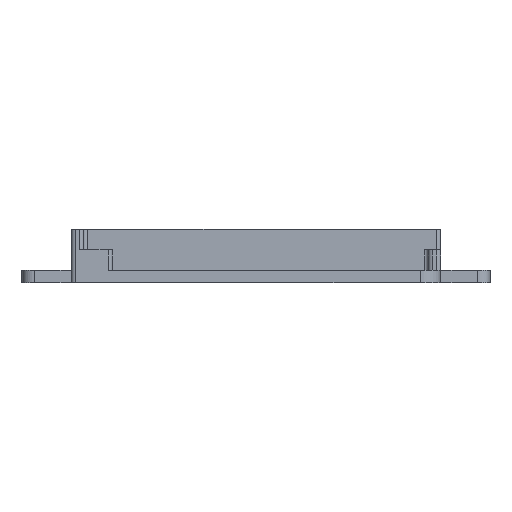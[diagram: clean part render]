
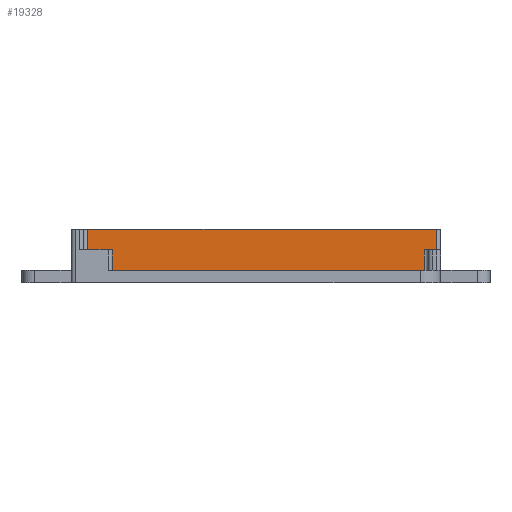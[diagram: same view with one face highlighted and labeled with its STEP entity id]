
A CAD part, front view. The second image highlights one B-rep face of the part: STEP entity #19328.
In plain terms, the highlighted planar face has unit normal (0, -1, 0).
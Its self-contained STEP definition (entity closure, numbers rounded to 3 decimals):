
#6405 = PLANE('',#6406);
#6406 = AXIS2_PLACEMENT_3D('',#6407,#6408,#6409);
#6407 = CARTESIAN_POINT('',(-45.,-87.5,13.));
#6408 = DIRECTION('',(0.,0.,1.));
#6409 = DIRECTION('',(1.,0.,0.));
#6517 = PLANE('',#6518);
#6518 = AXIS2_PLACEMENT_3D('',#6519,#6520,#6521);
#6519 = CARTESIAN_POINT('',(25.697,44.269,3.));
#6520 = DIRECTION('',(0.,0.,1.));
#6521 = DIRECTION('',(1.,0.,0.));
#8029 = CYLINDRICAL_SURFACE('',#8030,1.);
#8030 = AXIS2_PLACEMENT_3D('',#8031,#8032,#8033);
#8031 = CARTESIAN_POINT('',(44.,85.5,8.));
#8032 = DIRECTION('',(0.,0.,1.));
#8033 = DIRECTION('',(1.,0.,-0.));
#8055 = PLANE('',#8056);
#8056 = AXIS2_PLACEMENT_3D('',#8057,#8058,#8059);
#8057 = CARTESIAN_POINT('',(42.,67.5,8.));
#8058 = DIRECTION('',(0.,0.,1.));
#8059 = DIRECTION('',(1.,0.,0.));
#17591 = VERTEX_POINT('',#17592);
#17592 = CARTESIAN_POINT('',(-41.,84.5,13.));
#17611 = CYLINDRICAL_SURFACE('',#17612,1.);
#17612 = AXIS2_PLACEMENT_3D('',#17613,#17614,#17615);
#17613 = CARTESIAN_POINT('',(-41.,83.5,13.));
#17614 = DIRECTION('',(0.,0.,-1.));
#17615 = DIRECTION('',(-1.,-0.,-0.));
#17623 = EDGE_CURVE('',#17591,#17624,#17626,.T.);
#17624 = VERTEX_POINT('',#17625);
#17625 = CARTESIAN_POINT('',(44.,84.5,13.));
#17626 = SURFACE_CURVE('',#17627,(#17631,#17638),.PCURVE_S1.);
#17627 = LINE('',#17628,#17629);
#17628 = CARTESIAN_POINT('',(-45.,84.5,13.));
#17629 = VECTOR('',#17630,1.);
#17630 = DIRECTION('',(1.,0.,0.));
#17631 = PCURVE('',#6405,#17632);
#17632 = DEFINITIONAL_REPRESENTATION('',(#17633),#17637);
#17633 = LINE('',#17634,#17635);
#17634 = CARTESIAN_POINT('',(0.,172.));
#17635 = VECTOR('',#17636,1.);
#17636 = DIRECTION('',(1.,0.));
#17637 = ( GEOMETRIC_REPRESENTATION_CONTEXT(2) 
PARAMETRIC_REPRESENTATION_CONTEXT() REPRESENTATION_CONTEXT('2D SPACE',''
  ) );
#17638 = PCURVE('',#17639,#17644);
#17639 = PLANE('',#17640);
#17640 = AXIS2_PLACEMENT_3D('',#17641,#17642,#17643);
#17641 = CARTESIAN_POINT('',(-45.,84.5,3.));
#17642 = DIRECTION('',(0.,1.,0.));
#17643 = DIRECTION('',(0.,0.,1.));
#17644 = DEFINITIONAL_REPRESENTATION('',(#17645),#17649);
#17645 = LINE('',#17646,#17647);
#17646 = CARTESIAN_POINT('',(10.,0.));
#17647 = VECTOR('',#17648,1.);
#17648 = DIRECTION('',(0.,1.));
#17649 = ( GEOMETRIC_REPRESENTATION_CONTEXT(2) 
PARAMETRIC_REPRESENTATION_CONTEXT() REPRESENTATION_CONTEXT('2D SPACE',''
  ) );
#18105 = VERTEX_POINT('',#18106);
#18106 = CARTESIAN_POINT('',(41.,84.5,3.));
#18125 = CYLINDRICAL_SURFACE('',#18126,1.);
#18126 = AXIS2_PLACEMENT_3D('',#18127,#18128,#18129);
#18127 = CARTESIAN_POINT('',(41.,83.5,8.));
#18128 = DIRECTION('',(0.,0.,-1.));
#18129 = DIRECTION('',(0.,1.,0.));
#18137 = EDGE_CURVE('',#18138,#18105,#18140,.T.);
#18138 = VERTEX_POINT('',#18139);
#18139 = CARTESIAN_POINT('',(-41.,84.5,3.));
#18140 = SURFACE_CURVE('',#18141,(#18145,#18152),.PCURVE_S1.);
#18141 = LINE('',#18142,#18143);
#18142 = CARTESIAN_POINT('',(-45.,84.5,3.));
#18143 = VECTOR('',#18144,1.);
#18144 = DIRECTION('',(1.,0.,0.));
#18145 = PCURVE('',#6517,#18146);
#18146 = DEFINITIONAL_REPRESENTATION('',(#18147),#18151);
#18147 = LINE('',#18148,#18149);
#18148 = CARTESIAN_POINT('',(-70.697,40.231));
#18149 = VECTOR('',#18150,1.);
#18150 = DIRECTION('',(1.,0.));
#18151 = ( GEOMETRIC_REPRESENTATION_CONTEXT(2) 
PARAMETRIC_REPRESENTATION_CONTEXT() REPRESENTATION_CONTEXT('2D SPACE',''
  ) );
#18152 = PCURVE('',#17639,#18153);
#18153 = DEFINITIONAL_REPRESENTATION('',(#18154),#18158);
#18154 = LINE('',#18155,#18156);
#18155 = CARTESIAN_POINT('',(0.,0.));
#18156 = VECTOR('',#18157,1.);
#18157 = DIRECTION('',(0.,1.));
#18158 = ( GEOMETRIC_REPRESENTATION_CONTEXT(2) 
PARAMETRIC_REPRESENTATION_CONTEXT() REPRESENTATION_CONTEXT('2D SPACE',''
  ) );
#18966 = VERTEX_POINT('',#18967);
#18967 = CARTESIAN_POINT('',(44.,84.5,8.));
#18993 = EDGE_CURVE('',#18966,#17624,#18994,.T.);
#18994 = SURFACE_CURVE('',#18995,(#18999,#19006),.PCURVE_S1.);
#18995 = LINE('',#18996,#18997);
#18996 = CARTESIAN_POINT('',(44.,84.5,8.));
#18997 = VECTOR('',#18998,1.);
#18998 = DIRECTION('',(0.,0.,1.));
#18999 = PCURVE('',#8029,#19000);
#19000 = DEFINITIONAL_REPRESENTATION('',(#19001),#19005);
#19001 = LINE('',#19002,#19003);
#19002 = CARTESIAN_POINT('',(-1.571,0.));
#19003 = VECTOR('',#19004,1.);
#19004 = DIRECTION('',(-0.,1.));
#19005 = ( GEOMETRIC_REPRESENTATION_CONTEXT(2) 
PARAMETRIC_REPRESENTATION_CONTEXT() REPRESENTATION_CONTEXT('2D SPACE',''
  ) );
#19006 = PCURVE('',#17639,#19007);
#19007 = DEFINITIONAL_REPRESENTATION('',(#19008),#19012);
#19008 = LINE('',#19009,#19010);
#19009 = CARTESIAN_POINT('',(5.,89.));
#19010 = VECTOR('',#19011,1.);
#19011 = DIRECTION('',(1.,0.));
#19012 = ( GEOMETRIC_REPRESENTATION_CONTEXT(2) 
PARAMETRIC_REPRESENTATION_CONTEXT() REPRESENTATION_CONTEXT('2D SPACE',''
  ) );
#19096 = EDGE_CURVE('',#18966,#19097,#19099,.T.);
#19097 = VERTEX_POINT('',#19098);
#19098 = CARTESIAN_POINT('',(41.,84.5,8.));
#19099 = SURFACE_CURVE('',#19100,(#19104,#19111),.PCURVE_S1.);
#19100 = LINE('',#19101,#19102);
#19101 = CARTESIAN_POINT('',(44.,84.5,8.));
#19102 = VECTOR('',#19103,1.);
#19103 = DIRECTION('',(-1.,0.,0.));
#19104 = PCURVE('',#8055,#19105);
#19105 = DEFINITIONAL_REPRESENTATION('',(#19106),#19110);
#19106 = LINE('',#19107,#19108);
#19107 = CARTESIAN_POINT('',(2.,17.));
#19108 = VECTOR('',#19109,1.);
#19109 = DIRECTION('',(-1.,0.));
#19110 = ( GEOMETRIC_REPRESENTATION_CONTEXT(2) 
PARAMETRIC_REPRESENTATION_CONTEXT() REPRESENTATION_CONTEXT('2D SPACE',''
  ) );
#19111 = PCURVE('',#17639,#19112);
#19112 = DEFINITIONAL_REPRESENTATION('',(#19113),#19117);
#19113 = LINE('',#19114,#19115);
#19114 = CARTESIAN_POINT('',(5.,89.));
#19115 = VECTOR('',#19116,1.);
#19116 = DIRECTION('',(0.,-1.));
#19117 = ( GEOMETRIC_REPRESENTATION_CONTEXT(2) 
PARAMETRIC_REPRESENTATION_CONTEXT() REPRESENTATION_CONTEXT('2D SPACE',''
  ) );
#19306 = EDGE_CURVE('',#17591,#18138,#19307,.T.);
#19307 = SURFACE_CURVE('',#19308,(#19312,#19319),.PCURVE_S1.);
#19308 = LINE('',#19309,#19310);
#19309 = CARTESIAN_POINT('',(-41.,84.5,13.));
#19310 = VECTOR('',#19311,1.);
#19311 = DIRECTION('',(0.,0.,-1.));
#19312 = PCURVE('',#17611,#19313);
#19313 = DEFINITIONAL_REPRESENTATION('',(#19314),#19318);
#19314 = LINE('',#19315,#19316);
#19315 = CARTESIAN_POINT('',(1.571,0.));
#19316 = VECTOR('',#19317,1.);
#19317 = DIRECTION('',(0.,1.));
#19318 = ( GEOMETRIC_REPRESENTATION_CONTEXT(2) 
PARAMETRIC_REPRESENTATION_CONTEXT() REPRESENTATION_CONTEXT('2D SPACE',''
  ) );
#19319 = PCURVE('',#17639,#19320);
#19320 = DEFINITIONAL_REPRESENTATION('',(#19321),#19325);
#19321 = LINE('',#19322,#19323);
#19322 = CARTESIAN_POINT('',(10.,4.));
#19323 = VECTOR('',#19324,1.);
#19324 = DIRECTION('',(-1.,0.));
#19325 = ( GEOMETRIC_REPRESENTATION_CONTEXT(2) 
PARAMETRIC_REPRESENTATION_CONTEXT() REPRESENTATION_CONTEXT('2D SPACE',''
  ) );
#19328 = ADVANCED_FACE('',(#19329),#17639,.F.);
#19329 = FACE_BOUND('',#19330,.F.);
#19330 = EDGE_LOOP('',(#19331,#19332,#19333,#19334,#19335,#19336));
#19331 = ORIENTED_EDGE('',*,*,#18137,.F.);
#19332 = ORIENTED_EDGE('',*,*,#19306,.F.);
#19333 = ORIENTED_EDGE('',*,*,#17623,.T.);
#19334 = ORIENTED_EDGE('',*,*,#18993,.F.);
#19335 = ORIENTED_EDGE('',*,*,#19096,.T.);
#19336 = ORIENTED_EDGE('',*,*,#19337,.T.);
#19337 = EDGE_CURVE('',#19097,#18105,#19338,.T.);
#19338 = SURFACE_CURVE('',#19339,(#19343,#19350),.PCURVE_S1.);
#19339 = LINE('',#19340,#19341);
#19340 = CARTESIAN_POINT('',(41.,84.5,8.));
#19341 = VECTOR('',#19342,1.);
#19342 = DIRECTION('',(0.,0.,-1.));
#19343 = PCURVE('',#17639,#19344);
#19344 = DEFINITIONAL_REPRESENTATION('',(#19345),#19349);
#19345 = LINE('',#19346,#19347);
#19346 = CARTESIAN_POINT('',(5.,86.));
#19347 = VECTOR('',#19348,1.);
#19348 = DIRECTION('',(-1.,0.));
#19349 = ( GEOMETRIC_REPRESENTATION_CONTEXT(2) 
PARAMETRIC_REPRESENTATION_CONTEXT() REPRESENTATION_CONTEXT('2D SPACE',''
  ) );
#19350 = PCURVE('',#18125,#19351);
#19351 = DEFINITIONAL_REPRESENTATION('',(#19352),#19356);
#19352 = LINE('',#19353,#19354);
#19353 = CARTESIAN_POINT('',(0.,0.));
#19354 = VECTOR('',#19355,1.);
#19355 = DIRECTION('',(0.,1.));
#19356 = ( GEOMETRIC_REPRESENTATION_CONTEXT(2) 
PARAMETRIC_REPRESENTATION_CONTEXT() REPRESENTATION_CONTEXT('2D SPACE',''
  ) );
